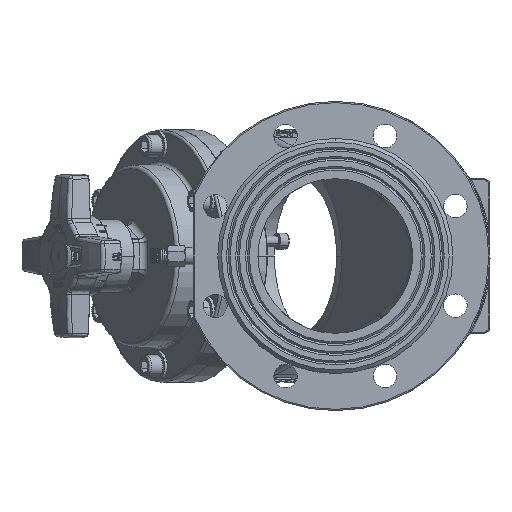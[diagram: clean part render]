
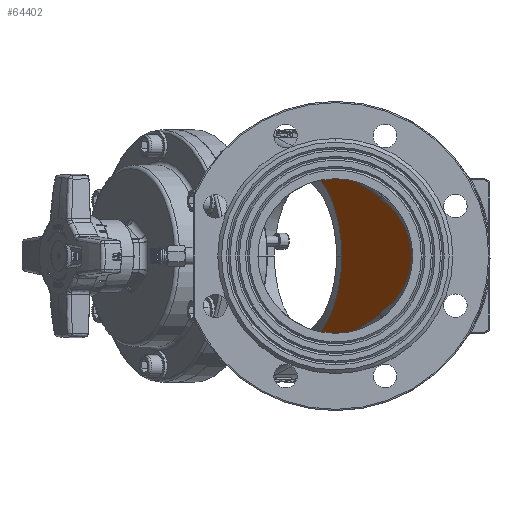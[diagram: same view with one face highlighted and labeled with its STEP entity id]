
A CAD part, left-side view. The second image highlights one B-rep face of the part: STEP entity #64402.
In plain terms, the highlighted planar face has unit normal (-0.5, 0.866, 0).
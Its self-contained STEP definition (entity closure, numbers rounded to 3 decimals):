
#5002 = VERTEX_POINT ( 'NONE', #117119 ) ;
#7050 = DIRECTION ( 'NONE',  ( -0.831, -0.48, 0.28 ) ) ;
#7074 =( BOUNDED_CURVE ( )  B_SPLINE_CURVE ( 3, ( #68179, #32888, #107081, #160537 ),
 .UNSPECIFIED., .F., .T. ) 
 B_SPLINE_CURVE_WITH_KNOTS ( ( 4, 4 ),
 ( 0., 0.991 ),
 .UNSPECIFIED. ) 
 CURVE ( )  GEOMETRIC_REPRESENTATION_ITEM ( )  RATIONAL_B_SPLINE_CURVE ( ( 1., 0.92, 0.92, 1. ) ) 
 REPRESENTATION_ITEM ( '' )  );
#9840 = EDGE_LOOP ( 'NONE', ( #59326, #237938, #98527, #202976, #55059, #108487, #227069 ) ) ;
#16146 = VECTOR ( 'NONE', #24932, 1000. ) ;
#24932 = DIRECTION ( 'NONE',  ( 0.831, 0.48, 0.28 ) ) ;
#30349 = DIRECTION ( 'NONE',  ( -0.866, -0.5, 0. ) ) ;
#32888 = CARTESIAN_POINT ( 'NONE',  ( -109.287, -61.428, 18.778 ) ) ;
#33220 = EDGE_CURVE ( 'NONE', #5002, #163578, #100647, .T. ) ;
#35417 = DIRECTION ( 'NONE',  ( -0.5, 0.866, 0. ) ) ;
#38908 = VECTOR ( 'NONE', #7050, 1000. ) ;
#40739 = CARTESIAN_POINT ( 'NONE',  ( -54.941, -30.052, -51.642 ) ) ;
#41730 = CARTESIAN_POINT ( 'NONE',  ( 50.786, 30.99, 0. ) ) ;
#41769 = VERTEX_POINT ( 'NONE', #208635 ) ;
#42650 = AXIS2_PLACEMENT_3D ( 'NONE', #219065, #35417, #181373 ) ;
#44272 = CIRCLE ( 'NONE', #176322, 53.8 ) ;
#54753 = EDGE_CURVE ( 'NONE', #163578, #92447, #44272, .T. ) ;
#55059 = ORIENTED_EDGE ( 'NONE', *, *, #109932, .T. ) ;
#55106 = DIRECTION ( 'NONE',  ( -0.5, 0.866, 0. ) ) ;
#57737 = CARTESIAN_POINT ( 'NONE',  ( -93.825, -52.501, -35.298 ) ) ;
#59326 = ORIENTED_EDGE ( 'NONE', *, *, #162953, .T. ) ;
#59701 = EDGE_CURVE ( 'NONE', #179234, #145656, #72141, .T. ) ;
#59953 = DIRECTION ( 'NONE',  ( -0.866, -0.5, 0. ) ) ;
#64402 = ADVANCED_FACE ( 'NONE', ( #108418, #165465 ), #71915, .T. ) ;
#64579 = CARTESIAN_POINT ( 'NONE',  ( -66.619, -36.794, -45.588 ) ) ;
#65334 = CARTESIAN_POINT ( 'NONE',  ( -54.941, -30.052, -51.642 ) ) ;
#68179 = CARTESIAN_POINT ( 'NONE',  ( -109.287, -61.428, 0. ) ) ;
#71200 = CARTESIAN_POINT ( 'NONE',  ( -109.287, -61.428, 0. ) ) ;
#71915 = PLANE ( 'NONE',  #42650 ) ;
#72141 = CIRCLE ( 'NONE', #204062, 53.8 ) ;
#72386 = CARTESIAN_POINT ( 'NONE',  ( -66.619, -36.794, -45.588 ) ) ;
#72795 = DIRECTION ( 'NONE',  ( -0.866, -0.5, 0. ) ) ;
#82071 = LINE ( 'NONE', #174421, #16146 ) ;
#89038 = DIRECTION ( 'NONE',  ( -0.866, -0.5, 0. ) ) ;
#92447 = VERTEX_POINT ( 'NONE', #64579 ) ;
#96972 = AXIS2_PLACEMENT_3D ( 'NONE', #41730, #203794, #59953 ) ;
#98527 = ORIENTED_EDGE ( 'NONE', *, *, #59701, .T. ) ;
#100647 = LINE ( 'NONE', #65334, #38908 ) ;
#107081 = CARTESIAN_POINT ( 'NONE',  ( -93.825, -52.501, 35.298 ) ) ;
#108418 = FACE_BOUND ( 'NONE', #109721, .T. ) ;
#108487 = ORIENTED_EDGE ( 'NONE', *, *, #33220, .T. ) ;
#109721 = EDGE_LOOP ( 'NONE', ( #233141, #132825 ) ) ;
#109932 = EDGE_CURVE ( 'NONE', #201464, #5002, #199548, .T. ) ;
#112260 = CARTESIAN_POINT ( 'NONE',  ( -41.878, -22.51, 0. ) ) ;
#116266 = CIRCLE ( 'NONE', #221048, 72.25 ) ;
#117119 = CARTESIAN_POINT ( 'NONE',  ( 30.439, 19.243, -80.439 ) ) ;
#120358 = DIRECTION ( 'NONE',  ( -0.5, 0.866, 0. ) ) ;
#120650 = CARTESIAN_POINT ( 'NONE',  ( -54.941, -30.052, 51.642 ) ) ;
#125487 = CARTESIAN_POINT ( 'NONE',  ( -41.878, -22.51, 0. ) ) ;
#132825 = ORIENTED_EDGE ( 'NONE', *, *, #205250, .F. ) ;
#135189 = CARTESIAN_POINT ( 'NONE',  ( -66.619, -36.794, 45.588 ) ) ;
#140124 = DIRECTION ( 'NONE',  ( -0.5, 0.866, 0. ) ) ;
#142162 = DIRECTION ( 'NONE',  ( -0.5, 0.866, 0. ) ) ;
#144497 = CARTESIAN_POINT ( 'NONE',  ( 30.439, 19.243, 80.439 ) ) ;
#145656 = VERTEX_POINT ( 'NONE', #120650 ) ;
#146516 = CARTESIAN_POINT ( 'NONE',  ( -109.287, -61.428, -18.778 ) ) ;
#159072 = CIRCLE ( 'NONE', #96972, 72.25 ) ;
#160537 = CARTESIAN_POINT ( 'NONE',  ( -66.619, -36.794, 45.588 ) ) ;
#162166 = DIRECTION ( 'NONE',  ( -0.866, -0.5, 0. ) ) ;
#162953 = EDGE_CURVE ( 'NONE', #92447, #41769, #226032, .T. ) ;
#163578 = VERTEX_POINT ( 'NONE', #40739 ) ;
#165465 = FACE_OUTER_BOUND ( 'NONE', #9840, .T. ) ;
#174421 = CARTESIAN_POINT ( 'NONE',  ( 30.439, 19.243, 80.439 ) ) ;
#176322 = AXIS2_PLACEMENT_3D ( 'NONE', #125487, #140124, #89038 ) ;
#179234 = VERTEX_POINT ( 'NONE', #135189 ) ;
#179350 = CARTESIAN_POINT ( 'NONE',  ( 113.357, 67.115, 0. ) ) ;
#181373 = DIRECTION ( 'NONE',  ( -0.866, -0.5, 0. ) ) ;
#196917 = CARTESIAN_POINT ( 'NONE',  ( 50.786, 30.99, 0. ) ) ;
#199548 = CIRCLE ( 'NONE', #207342, 83.8 ) ;
#201464 = VERTEX_POINT ( 'NONE', #144497 ) ;
#202976 = ORIENTED_EDGE ( 'NONE', *, *, #223914, .T. ) ;
#203794 = DIRECTION ( 'NONE',  ( -0.5, 0.866, 0. ) ) ;
#204062 = AXIS2_PLACEMENT_3D ( 'NONE', #112260, #55106, #162166 ) ;
#205250 = EDGE_CURVE ( 'NONE', #225935, #226413, #116266, .T. ) ;
#207342 = AXIS2_PLACEMENT_3D ( 'NONE', #196917, #120358, #30349 ) ;
#208635 = CARTESIAN_POINT ( 'NONE',  ( -109.287, -61.428, 0. ) ) ;
#219065 = CARTESIAN_POINT ( 'NONE',  ( -41.878, -22.51, 0. ) ) ;
#219938 = CARTESIAN_POINT ( 'NONE',  ( 50.786, 30.99, 0. ) ) ;
#221048 = AXIS2_PLACEMENT_3D ( 'NONE', #219938, #142162, #72795 ) ;
#223914 = EDGE_CURVE ( 'NONE', #145656, #201464, #82071, .T. ) ;
#225935 = VERTEX_POINT ( 'NONE', #179350 ) ;
#226032 =( BOUNDED_CURVE ( )  B_SPLINE_CURVE ( 3, ( #72386, #57737, #146516, #71200 ),
 .UNSPECIFIED., .F., .F. ) 
 B_SPLINE_CURVE_WITH_KNOTS ( ( 4, 4 ),
 ( 5.292, 6.283 ),
 .UNSPECIFIED. ) 
 CURVE ( )  GEOMETRIC_REPRESENTATION_ITEM ( )  RATIONAL_B_SPLINE_CURVE ( ( 1., 0.92, 0.92, 1. ) ) 
 REPRESENTATION_ITEM ( '' )  );
#226413 = VERTEX_POINT ( 'NONE', #228715 ) ;
#227069 = ORIENTED_EDGE ( 'NONE', *, *, #54753, .T. ) ;
#228715 = CARTESIAN_POINT ( 'NONE',  ( -11.784, -5.135, 0. ) ) ;
#233141 = ORIENTED_EDGE ( 'NONE', *, *, #240467, .F. ) ;
#236304 = EDGE_CURVE ( 'NONE', #41769, #179234, #7074, .T. ) ;
#237938 = ORIENTED_EDGE ( 'NONE', *, *, #236304, .T. ) ;
#240467 = EDGE_CURVE ( 'NONE', #226413, #225935, #159072, .T. ) ;
